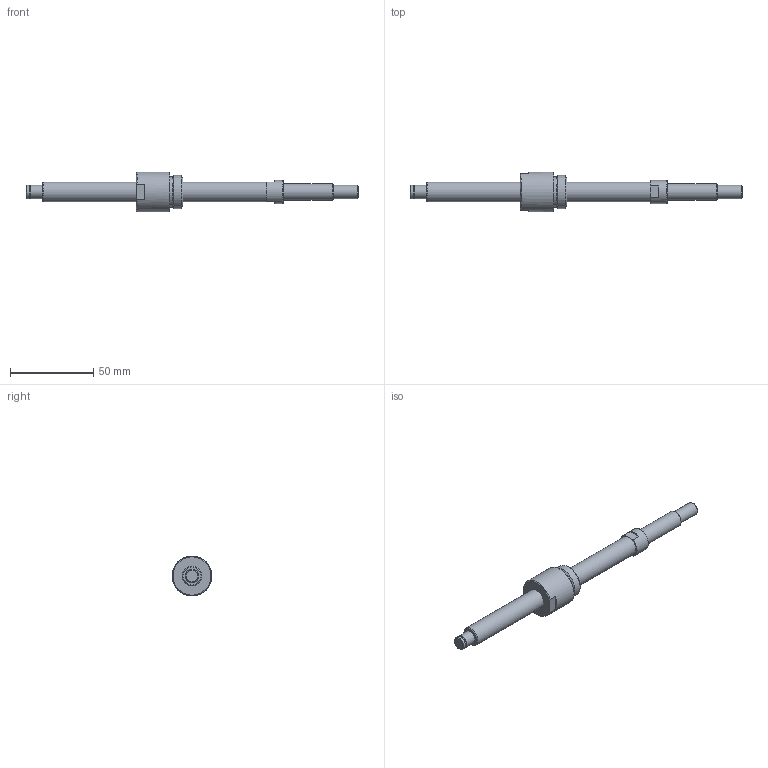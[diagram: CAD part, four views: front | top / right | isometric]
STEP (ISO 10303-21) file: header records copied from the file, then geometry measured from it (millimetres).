
FILE_DESCRIPTION(/* description */ ('STEP AP214'),/* implementation_level */ '2;1');
FILE_NAME(/* name */ 'NSG1202-131R200C5B0X(56.5)',/* time_stamp */ '2026-08-20T15:49:52+02:00',/* author */ ('License CC BY-ND 4.0'),/* organization */ ('CADENAS'),/* preprocessor_version */ 'ST-DEVELOPER v20',/* originating_system */ 'PARTsolutions',/* authorisation */ ' ');
FILE_SCHEMA (('AUTOMOTIVE_DESIGN {1 0 10303 214 3 1 1}'));
Length unit declared in the file: millimetre
Products named in the file (3): NSG1202-131R200C5B0X(56.5); NSG1202-131R200C3B_shaft; NSG1202_nut
Assembly tree (2 placements, depth 2):
  NSG1202-131R200C5B0X(56.5)
    NSG1202-131R200C3B_shaft
    NSG1202_nut
Bounding box: 200 x 24 x 24 mm (x, y, z)
Volume: 28533.7 mm3; surface area: 11099.2 mm2
Topology: 2 solids, 2 shells, 42 faces, 83 edges, 51 vertices
Faces by surface type: plane 20, cylinder 11, cone 10, torus 1
Full cylindrical faces by diameter (mm): 7.6 x1, 8 x3, 10 x1, 12 x2, 14 x1, 18.4 x1, 20 x1, 24 x1
Entity records: 1047 total; most frequent: DIRECTION 186, CARTESIAN_POINT 167, ORIENTED_EDGE 122, AXIS2_PLACEMENT_3D 84, EDGE_LOOP 70, FACE_BOUND 70, EDGE_CURVE 61, VERTEX_POINT 49
